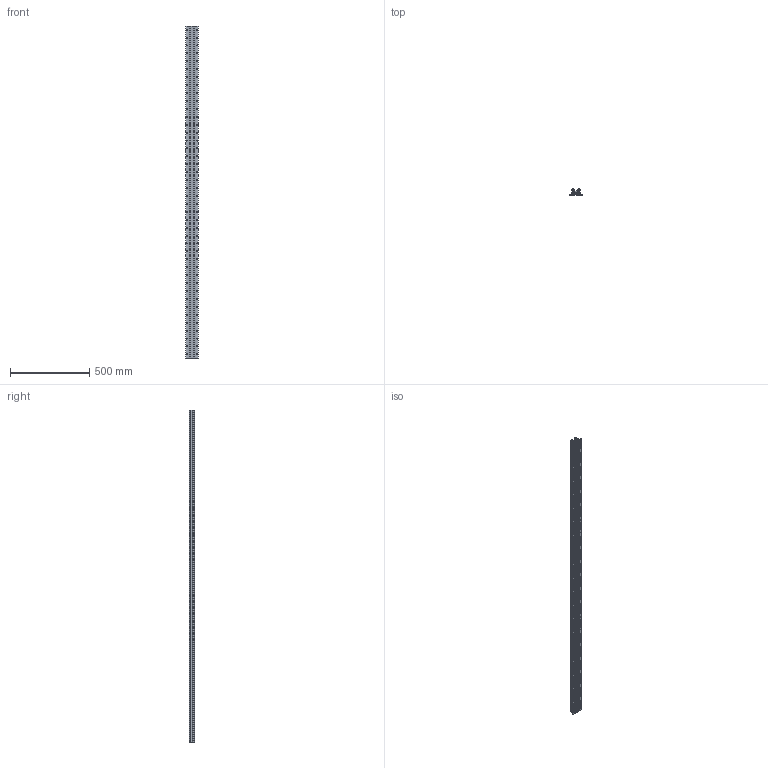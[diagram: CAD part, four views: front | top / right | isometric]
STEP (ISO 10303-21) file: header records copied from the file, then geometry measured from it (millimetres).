
FILE_DESCRIPTION (( 'STEP AP203' ), '1' );
FILE_NAME ('LFS-8-7_-_L=2096.step', '2006-12-18T13:27:48', ( ' ' ), ( ' ' ), 'SwSTEP 2.0', 'SolidWorks 2006089', '' );
FILE_SCHEMA (( 'CONFIG_CONTROL_DESIGN' ));
Length unit declared in the file: millimetre
Products named in the file (1): LFS-8-7_-_L=2096
Bounding box: 78 x 36 x 2096 mm (x, y, z)
Volume: 1813532 mm3; surface area: 1165494 mm2
Topology: 3 solids, 3 shells, 511 faces, 1599 edges, 1010 vertices
Faces by surface type: plane 287, cylinder 224
Entity records: 18018 total; most frequent: CARTESIAN_POINT 4129, ORIENTED_EDGE 3198, DIRECTION 2735, EDGE_CURVE 1599, VERTEX_POINT 1010, AXIS2_PLACEMENT_3D 960, LINE 815, VECTOR 815
